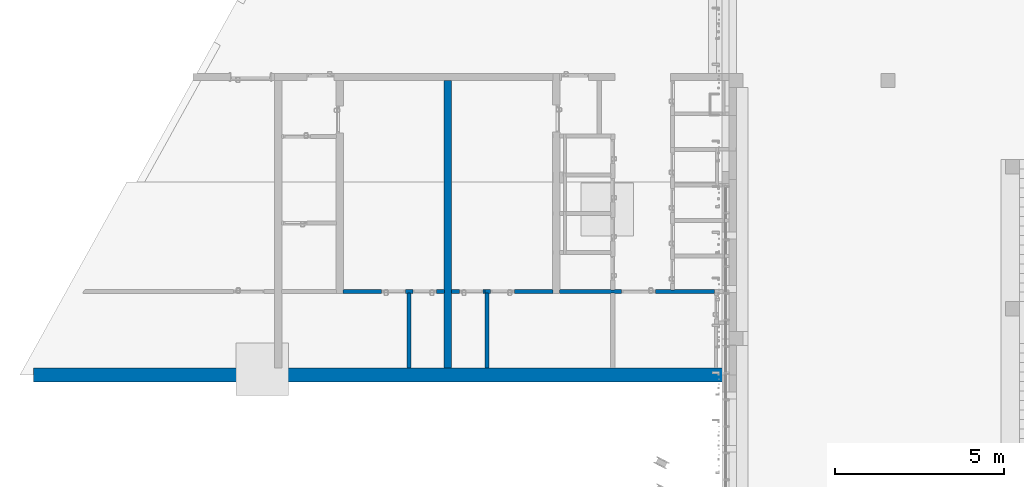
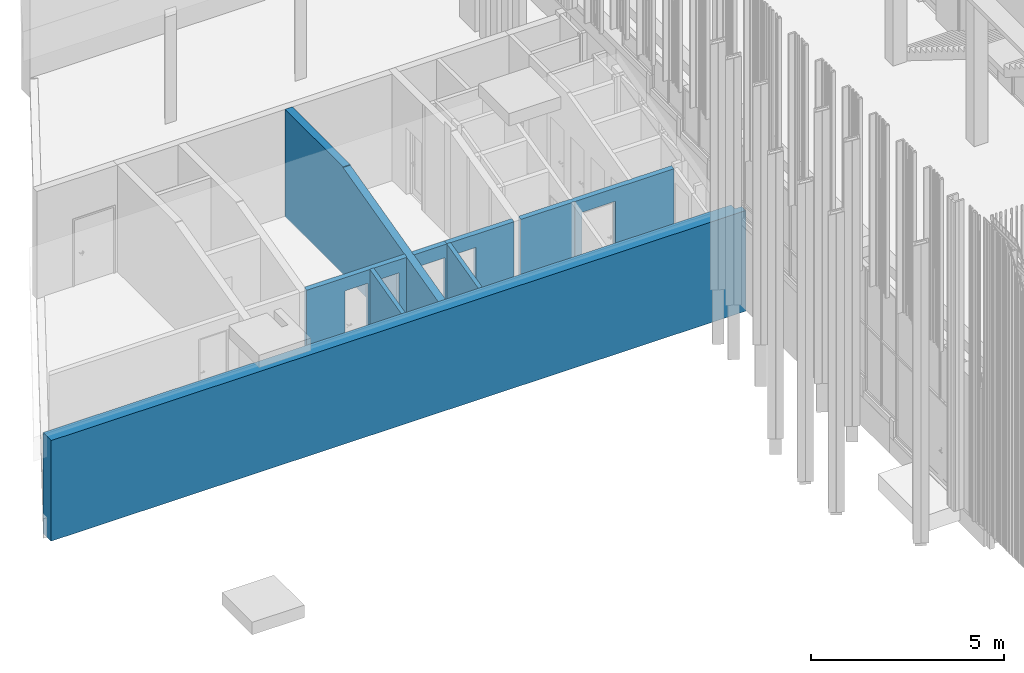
# One storey, part 113 of 390: 8 walls.
"""IFC2X3 building model written with IfcOpenShell, lengths in millimetres."""

from ifc_helpers import new_model, entity, si_unit, converted_unit, derived_unit, money_unit, direction, frame, origin_with_axes, place, context, subcontext, project, spatial, faceted_brep, material, material_list, type_object, element, save


model = new_model("IFC2X3")

# Units and contexts
model_context = context("Model", 3, precision=1e-05, world=origin_with_axes(), true_north=direction((0.0, 1.0)))
body_context = subcontext(model_context, "Body", "Model", "MODEL_VIEW")
ifc_project = project(units=[si_unit("LENGTHUNIT", "METRE", prefix="MILLI"), si_unit("AREAUNIT", "SQUARE_METRE"), si_unit("VOLUMEUNIT", "CUBIC_METRE"), converted_unit("PLANEANGLEUNIT", "DEGREE", entity("IfcPlaneAngleMeasure", 0.0174532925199), si_unit("PLANEANGLEUNIT", "RADIAN"), dimensions=[0, 0, 0, 0, 0, 0, 0]), si_unit("SOLIDANGLEUNIT", "STERADIAN"), money_unit("EUR"), converted_unit("TIMEUNIT", "Year", entity("IfcTimeMeasure", 31556926.0), si_unit("TIMEUNIT", "SECOND"), dimensions=[0, 0, 1, 0, 0, 0, 0]), si_unit("MASSUNIT", "GRAM", prefix="KILO"), si_unit("THERMODYNAMICTEMPERATUREUNIT", "DEGREE_CELSIUS"), si_unit("LUMINOUSINTENSITYUNIT", "LUMEN"), si_unit("ENERGYUNIT", "JOULE", prefix="MEGA"), derived_unit("THERMALCONDUCTANCEUNIT", [(si_unit("POWERUNIT", "WATT"), 1), (si_unit("LENGTHUNIT", "METRE"), -1), (si_unit("THERMODYNAMICTEMPERATUREUNIT", "KELVIN"), -1)]), derived_unit("SPECIFICHEATCAPACITYUNIT", [(si_unit("ENERGYUNIT", "JOULE"), 1), (si_unit("MASSUNIT", "GRAM", prefix="KILO"), -1), (si_unit("THERMODYNAMICTEMPERATUREUNIT", "KELVIN"), -1)]), derived_unit("MASSDENSITYUNIT", [(si_unit("MASSUNIT", "GRAM", prefix="KILO"), 1), (si_unit("VOLUMEUNIT", "CUBIC_METRE"), -1)])], contexts=[model_context])

# Site, building, storey
site_placement = place(None, origin_with_axes())
site = spatial("IfcSite", under=ifc_project, at=site_placement, Name="Site", CompositionType="ELEMENT")
building_placement = place(site_placement, origin_with_axes())
building = spatial("IfcBuilding", under=site, at=building_placement, Name="Building", CompositionType="ELEMENT")
storey_placement = place(building_placement, origin_with_axes())
storey = spatial("IfcBuildingStorey", under=building, at=storey_placement, Name="1 korrus", CompositionType="ELEMENT", Elevation=0.0)

# Walls
ifc_material_1 = material(Name="Krohv - Lubjakivi")
ifc_material_2 = material(Name="Raudbetoon - Konstruktsioon")
ifc_material_list_1 = material_list([ifc_material_1, ifc_material_1, ifc_material_2, ifc_material_1, ifc_material_1])
wall_type_1 = type_object("IfcWallType", Name="SS-10", PredefinedType="NOTDEFINED")
wall_1_placement = place(storey_placement, frame((114499.999993, 67290.00001, -620.0), z_axis=(0.0, 0.0, 1.0), x_axis=(-1.40133422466e-10, -1.0, 0.0)))
element("IfcWall", 1, at=wall_1_placement, inside=storey, type_object=wall_type_1, material=ifc_material_list_1, Name="SS-10", context=body_context, shape_type="Brep", body=[
    faceted_brep([(-2.83222334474e-08, -10.0, 3395.23675944), (0.0, 0.0, 3395.23675944), (0.0, 0.0, 0.0), (1.4068746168e-09, -10.0, 0.0), (2993.68143698, 4.19518642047e-07, 3395.23675944), (2993.68143698, -10.0000003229, 3395.23675944), (2993.68143643, 4.19518642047e-07, 3372.06226557), (6179.99999948, 8.66023697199e-07, 2562.84043919), (6179.99999948, 8.66023697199e-07, 0.0), (6179.99999948, -10.0, 0.0), (6179.99999948, -10.0, 2562.84043919), (2993.68143643, -10.0000004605, 3372.06226557)], [[[0, 1, 2, 3]], [[4, 1, 0, 5]], [[1, 4, 6, 7, 8, 2]], [[3, 2, 8, 9]], [[5, 0, 3, 9, 10, 11]], [[4, 5, 11, 6]], [[10, 7, 6, 11]], [[8, 7, 10, 9]]]),
    faceted_brep([(6279.99999948, -10.0, 2537.44367454), (6279.99999948, 8.80049810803e-07, 2537.44367454), (6279.99999948, 8.80049810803e-07, 0.0), (6279.99999948, -10.0, 0.0), (8490.00000015, 1.18973275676e-06, 1976.17517566), (8490.00000015, -9.99999881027, 1976.17517566), (8490.00000015, 1.18973275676e-06, 0.0), (8490.00000015, -9.99999881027, 0.0)], [[[0, 1, 2, 3]], [[4, 1, 0, 5]], [[1, 4, 6, 2]], [[7, 3, 2, 6]], [[5, 0, 3, 7]], [[4, 5, 7, 6]]]),
    faceted_brep([(-1.39266376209e-09, -210.0, 3395.23675944), (-2.94164692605e-08, -10.0, 3395.23675944), (-9.9999999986, -10.0000000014, 3395.23675923), (-9.99999997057, -210.000000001, 3395.23675923), (2993.68143698, -9.99999958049, 3395.23675944), (2993.681437, -209.99999958, 3395.23675944), (2993.68143643, -9.99999958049, 3372.06226557), (8490.00000012, -9.99999881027, 1976.17517567), (8490.00000012, -9.99999881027, 0.0), (-9.9999999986, -10.0000000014, 0.0), (-9.99999997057, -210.000000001, 0.0), (8490.00000015, -209.99999881, 0.0), (8490.00000015, -209.99999881, 1976.17517567), (2993.68143645, -209.99999958, 3372.06226557)], [[[0, 1, 2, 3]], [[4, 1, 0, 5]], [[1, 4, 6, 7, 8, 9, 2]], [[9, 10, 3, 2]], [[5, 0, 3, 10, 11, 12, 13]], [[4, 5, 13, 6]], [[12, 7, 6, 13]], [[8, 7, 12, 11]], [[8, 11, 10, 9]]]),
    faceted_brep([(3.08233438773e-08, -220.0, 3395.23675944), (-2.98427949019e-10, -210.0, 3395.23675944), (2.94306801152e-08, -210.0, 0.0), (3.08233438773e-08, -220.0, 0.0), (2993.681437, -209.99999958, 3395.23675944), (2993.681437, -219.99999958, 3395.23675944), (2993.68143645, -209.99999958, 3372.06226557), (6179.99999936, -209.999999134, 2562.84043923), (6179.9999995, -209.999999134, 0.0), (6179.9999995, -219.999999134, 0.0), (6179.99999936, -219.999999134, 2562.84043923), (2993.68143645, -219.99999958, 3372.06226557)], [[[0, 1, 2, 3]], [[4, 1, 0, 5]], [[1, 4, 6, 7, 8, 2]], [[3, 2, 8, 9]], [[5, 0, 3, 9, 10, 11]], [[4, 5, 11, 6]], [[10, 7, 6, 11]], [[8, 7, 10, 9]]]),
    faceted_brep([(6279.99999936, -219.99999912, 2537.44367458), (6279.99999936, -209.99999912, 2537.44367458), (6279.9999995, -209.99999912, 0.0), (6279.9999995, -219.99999912, 0.0), (8490.00000015, -209.99999881, 1976.17517567), (8490.00000015, -219.99999881, 1976.17517567), (8490.00000015, -209.99999881, 0.0), (8490.00000015, -219.99999881, 0.0)], [[[0, 1, 2, 3]], [[4, 1, 0, 5]], [[1, 4, 6, 2]], [[7, 3, 2, 6]], [[5, 0, 3, 7]], [[4, 5, 7, 6]]]),
])
ifc_material_3 = material(Name="Soojustus - Plastik Kõva")
ifc_material_4 = material(Name="Membraan - Veekindel")
ifc_material_list_2 = material_list([ifc_material_1, ifc_material_2, ifc_material_3, ifc_material_3, ifc_material_4, ifc_material_4])
wall_type_2 = type_object("IfcWallType", Name="VS-03", PredefinedType="NOTDEFINED")
wall_2_placement = place(storey_placement, frame((102141.328445, 58800.0000072, -1220.0), z_axis=(0.0, 0.0, 1.0), x_axis=(1.0, 0.0, 0.0)))
element("IfcWall", 2, at=wall_2_placement, inside=storey, type_object=wall_type_2, material=ifc_material_list_2, Name="VS-03", context=body_context, shape_type="Brep", body=[
    faceted_brep([(20348.6715499, 2.72848410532e-07, 3181.33081062), (20348.6715499, 1.12495115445e-05, 2923.43989424), (20768.6715499, 1.1255139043e-05, 2923.43989424), (20768.6715409, 1.1255139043e-05, 0.0), (0.0, 0.0, 0.0), (0.0, 0.0, 3181.33081062), (20348.6715499, -9.99999972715, 3181.33081062), (20348.6715499, -9.99997863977, 2923.43989424), (20768.6715499, -9.9999980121, 2923.43989424), (20768.6715409, -9.99997863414, 0.0), (1.27897692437e-10, -10.0, 0.0), (1.27897692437e-10, -10.0, 3181.33081062)], [[[0, 1, 2, 3, 4, 5]], [[1, 0, 6, 7]], [[2, 1, 7, 8]], [[2, 8, 9, 3]], [[4, 3, 9, 10]], [[4, 10, 11, 5]], [[6, 0, 5, 11]], [[7, 6, 11, 10, 9, 8]]]),
    faceted_brep([(20558.6715499, -9.99999972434, 3181.33081062), (20558.6715499, -9.99997863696, 2923.43989424), (20768.6715499, -9.9999980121, 2923.43989424), (20768.6715409, -9.99997863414, 0.0), (1.27897692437e-10, -10.0, 0.0), (1.27897692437e-10, -10.0, 3181.33081062), (20558.6715499, -209.999997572, 3181.33081062), (20558.6715499, -209.999997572, 2923.43989424), (20768.6715499, -209.999997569, 2923.43989424), (20768.6715409, -209.999994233, 0.0), (2.81374923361e-09, -210.0, 0.0), (2.81374923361e-09, -210.0, 3181.33081062)], [[[0, 1, 2, 3, 4, 5]], [[1, 0, 6, 7]], [[2, 1, 7, 8]], [[2, 8, 9, 3]], [[4, 3, 9, 10]], [[4, 10, 11, 5]], [[6, 0, 5, 11]], [[7, 6, 11, 10, 9, 8]]]),
    faceted_brep([(20768.6715499, -209.999999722, 3181.3308078), (20768.6715499, -359.999999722, 3181.3308078), (20768.6715409, -359.999999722, 0.0), (20768.6715409, -209.999994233, 0.0), (4.83169060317e-09, -360.0, 3181.33081062), (2.81374923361e-09, -210.0, 3181.33081062), (4.83169060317e-09, -360.0, 0.0), (2.81374923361e-09, -210.0, 0.0)], [[[0, 1, 2, 3]], [[4, 1, 0, 5]], [[6, 2, 1, 4]], [[7, 3, 2, 6]], [[0, 3, 7, 5]], [[7, 6, 4, 5]]]),
    faceted_brep([(20768.6715499, -409.999999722, 3181.3308078), (20768.6715409, -410.000009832, 0.0), (20768.6715409, -359.999999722, 0.0), (20768.6715499, -359.999999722, 3181.3308078), (5.49960077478e-09, -410.0, 3181.33081062), (5.49960077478e-09, -410.0, 0.0), (4.83169060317e-09, -360.0, 0.0), (4.83169060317e-09, -360.0, 3181.33081062)], [[[0, 1, 2, 3]], [[1, 0, 4, 5]], [[2, 1, 5, 6]], [[2, 6, 7, 3]], [[0, 3, 7, 4]], [[5, 4, 7, 6]]]),
    faceted_brep([(20768.6715499, -414.999999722, 3181.3308078), (20768.6715409, -414.999999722, 0.0), (20768.6715409, -410.000009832, 0.0), (20768.6715499, -409.999999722, 3181.3308078), (5.57065504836e-09, -415.0, 3181.33081062), (5.57065504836e-09, -415.0, 0.0), (5.49960077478e-09, -410.0, 0.0), (5.49960077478e-09, -410.0, 3181.33081062)], [[[0, 1, 2, 3]], [[1, 0, 4, 5]], [[2, 1, 5, 6]], [[2, 6, 7, 3]], [[0, 3, 7, 4]], [[5, 4, 7, 6]]]),
    faceted_brep([(20768.6715409, -419.999999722, 2923.43989424), (20768.6715409, -419.999999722, 0.0), (20768.6715409, -414.999999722, 0.0), (20768.6715499, -414.999999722, 3181.3308078), (20768.6715499, -419.999999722, 3181.3308078), (5.62749846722e-09, -420.0, 3181.33081062), (5.62749846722e-09, -420.0, 0.0), (5.57065504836e-09, -415.0, 0.0), (5.57065504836e-09, -415.0, 3181.33081062)], [[[0, 1, 2, 3, 4]], [[1, 0, 4, 5, 6]], [[2, 1, 6, 7]], [[2, 7, 8, 3]], [[4, 3, 8, 5]], [[6, 5, 8, 7]]]),
])
ifc_material_5 = material(Name="Müüriplokk - Konstuktsioon")
ifc_material_list_3 = material_list([ifc_material_1, ifc_material_5, ifc_material_1])
wall_type_3 = type_object("IfcWallType", Name="SS-07", PredefinedType="NOTDEFINED")
wall_3_placement = place(storey_placement, frame((115479.999992, 61000.0000105, -620.0), z_axis=(0.0, 0.0, 1.0), x_axis=(-1.0, 1.40129178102e-10, 0.0)))
element("IfcWall", 3, at=wall_3_placement, inside=storey, type_object=wall_type_3, material=ifc_material_list_3, Name="SS-07", context=body_context, shape_type="Brep", body=[
    faceted_brep([(980.0, -9.99999986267, 2537.44367454), (1.39266376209e-09, -10.0, 2537.44367454), (1.39266376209e-09, -10.0, 0.0), (49.9999999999, -9.99999999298, 0.0), (49.9999999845, -9.99999999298, 20.0), (49.9999999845, -9.99999999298, 2120.0), (749.999999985, -9.99999989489, 2120.0), (749.999999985, -9.99999989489, 20.0), (750.0, -9.99999989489, 0.0), (980.0, -9.99999986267, 0.0), (0.0, 0.0, 2534.90399808), (980.0, 1.3732659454e-07, 2534.90399808), (0.0, 0.0, 0.0), (49.9999999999, 7.01305680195e-09, 0.0), (49.9999999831, 7.01305680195e-09, 20.0), (49.9999999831, 7.01305680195e-09, 2120.0), (749.999999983, 1.05103481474e-07, 2120.0), (749.999999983, 1.05103481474e-07, 20.0), (750.0, 1.05103481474e-07, 0.0), (980.0, 1.3732659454e-07, 0.0)], [[[0, 1, 2, 3, 4, 5, 6, 7, 8, 9]], [[10, 1, 0, 11]], [[1, 10, 12, 2]], [[13, 3, 2, 12]], [[13, 14, 4, 3]], [[15, 5, 4, 14]], [[16, 6, 5, 15]], [[17, 7, 6, 16]], [[8, 7, 17, 18]], [[8, 18, 19, 9]], [[11, 0, 9, 19]], [[10, 11, 19, 18, 17, 16, 15, 14, 13, 12]]]),
    faceted_brep([(990.0, -109.999999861, 2562.84043919), (1.54045665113e-08, -110.0, 2562.84043919), (1.54045665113e-08, -110.0, 0.0), (49.9999999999, -109.999999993, 0.0), (49.9999999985, -109.999999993, 20.0), (49.9999999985, -109.999999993, 2120.0), (749.999999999, -109.999999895, 2120.0), (749.999999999, -109.999999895, 20.0), (750.0, -109.999999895, 0.0), (990.0, -109.999999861, 0.0), (1.39266376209e-09, -10.0, 2537.44367454), (990.0, -9.99999986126, 2537.44367454), (1.39266376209e-09, -10.0, 0.0), (49.9999999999, -9.99999999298, 0.0), (49.9999999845, -9.99999999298, 20.0), (49.9999999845, -9.99999999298, 2120.0), (749.999999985, -9.99999989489, 2120.0), (749.999999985, -9.99999989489, 20.0), (750.0, -9.99999989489, 0.0), (990.0, -9.99999986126, 0.0)], [[[0, 1, 2, 3, 4, 5, 6, 7, 8, 9]], [[10, 1, 0, 11]], [[1, 10, 12, 2]], [[13, 3, 2, 12]], [[13, 14, 4, 3]], [[15, 5, 4, 14]], [[16, 6, 5, 15]], [[17, 7, 6, 16]], [[8, 7, 17, 18]], [[8, 18, 19, 9]], [[11, 0, 9, 19]], [[10, 11, 19, 18, 17, 16, 15, 14, 13, 12]]]),
    faceted_brep([(980.0, -119.999999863, 2565.38011565), (1.68114411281e-08, -120.0, 2565.38011565), (1.68114411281e-08, -120.0, 0.0), (49.9999999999, -119.999999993, 0.0), (50.0, -119.999999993, 20.0), (50.0, -119.999999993, 2120.0), (750.0, -119.999999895, 2120.0), (750.0, -119.999999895, 20.0), (750.0, -119.999999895, 0.0), (980.0, -119.999999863, 0.0), (1.54045665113e-08, -110.0, 2562.84043919), (980.0, -109.999999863, 2562.84043919), (1.54045665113e-08, -110.0, 0.0), (49.9999999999, -109.999999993, 0.0), (49.9999999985, -109.999999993, 20.0), (49.9999999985, -109.999999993, 2120.0), (749.999999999, -109.999999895, 2120.0), (749.999999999, -109.999999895, 20.0), (750.0, -109.999999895, 0.0), (980.0, -109.999999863, 0.0)], [[[0, 1, 2, 3, 4, 5, 6, 7, 8, 9]], [[10, 1, 0, 11]], [[1, 10, 12, 2]], [[13, 3, 2, 12]], [[13, 14, 4, 3]], [[15, 5, 4, 14]], [[16, 6, 5, 15]], [[17, 7, 6, 16]], [[8, 7, 17, 18]], [[8, 18, 19, 9]], [[11, 0, 9, 19]], [[10, 11, 19, 18, 17, 16, 15, 14, 13, 12]]]),
])
ifc_material_list_4 = material_list([ifc_material_1, ifc_material_1, ifc_material_5, ifc_material_1, ifc_material_1, ifc_material_1])
wall_4_placement = place(storey_placement, frame((122269.999996, 61000.0000102, -620.0), z_axis=(0.0, 0.0, 1.0), x_axis=(-1.0, 0.0, 0.0)))
element("IfcWall", 4, at=wall_4_placement, inside=storey, type_object=wall_type_3, material=ifc_material_list_4, Name="SS-07", context=body_context, shape_type="Brep", body=[
    faceted_brep([(2960.00000306, -9.99999996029, 2537.44367445), (1.42108547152e-10, -10.0, 2537.44367445), (1.42108547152e-10, -10.0, 0.0), (1750.00000306, -9.99999997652, 0.0), (1750.00000306, -9.99999997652, 20.0), (1750.00000306, -9.99999997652, 2120.0), (2750.00000306, -9.99999996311, 2120.0), (2750.00000306, -9.99999996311, 20.0), (2750.00000306, -9.99999996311, 0.0), (2960.00000306, -9.99999996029, 0.0), (0.0, 0.0, 2534.90399798), (2960.00000306, 3.97051280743e-08, 2534.90399798), (0.0, 0.0, 0.0), (1750.00000306, 2.34763319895e-08, 0.0), (1750.00000306, 2.34763319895e-08, 20.0), (1750.00000306, 2.34763319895e-08, 2120.0), (2750.00000306, 3.68913788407e-08, 2120.0), (2750.00000306, 3.68913788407e-08, 20.0), (2750.00000306, 3.68913788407e-08, 0.0), (2960.00000306, 3.97051280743e-08, 0.0)], [[[0, 1, 2, 3, 4, 5, 6, 7, 8, 9]], [[10, 1, 0, 11]], [[1, 10, 12, 2]], [[13, 3, 2, 12]], [[13, 14, 4, 3]], [[15, 5, 4, 14]], [[16, 6, 5, 15]], [[17, 7, 6, 16]], [[8, 7, 17, 18]], [[8, 18, 19, 9]], [[11, 0, 9, 19]], [[10, 11, 19, 18, 17, 16, 15, 14, 13, 12]]]),
    faceted_brep([(4570.00000294, -9.9999999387, 2537.44367445), (3060.00000306, -9.99999995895, 2537.44367445), (3060.00000306, -9.99999995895, 0.0), (4570.00000294, -9.9999999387, 0.0), (3060.00000306, 4.10480538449e-08, 2534.90399798), (4570.00000294, 1.21704601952e-06, 2534.90399769), (3060.00000306, 4.10480538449e-08, 0.0), (4570.00000294, 4.43303349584e-06, 0.0)], [[[0, 1, 2, 3]], [[4, 1, 0, 5]], [[1, 4, 6, 2]], [[6, 7, 3, 2]], [[5, 0, 3, 7]], [[4, 5, 7, 6]]]),
    faceted_brep([(4580.00000354, -109.999999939, 2562.84043909), (1.47792889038e-09, -110.0, 2562.84043909), (1.47792889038e-09, -110.0, 0.0), (1750.00000306, -109.999999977, 0.0), (1750.00000306, -109.999999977, 20.0), (1750.00000306, -109.999999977, 2120.0), (2750.00000306, -109.999999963, 2120.0), (2750.00000306, -109.999999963, 20.0), (2750.00000306, -109.999999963, 0.0), (4580.00000354, -109.999999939, 0.0), (1.42108547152e-10, -10.0, 2537.44367445), (4580.00000354, -9.99999993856, 2537.44367445), (1.42108547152e-10, -10.0, 0.0), (1750.00000306, -9.99999997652, 0.0), (1750.00000306, -9.99999997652, 20.0), (1750.00000306, -9.99999997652, 2120.0), (2750.00000306, -9.99999996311, 2120.0), (2750.00000306, -9.99999996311, 20.0), (2750.00000306, -9.99999996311, 0.0), (4580.00000354, -9.99999993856, 0.0)], [[[0, 1, 2, 3, 4, 5, 6, 7, 8, 9]], [[10, 1, 0, 11]], [[1, 10, 12, 2]], [[13, 3, 2, 12]], [[13, 14, 4, 3]], [[15, 5, 4, 14]], [[16, 6, 5, 15]], [[17, 7, 6, 16]], [[8, 7, 17, 18]], [[8, 18, 19, 9]], [[11, 0, 9, 19]], [[10, 11, 19, 18, 17, 16, 15, 14, 13, 12]]]),
    faceted_brep([(2960.00000306, -119.99999996, 2565.38011556), (1290.00000367, -119.999999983, 2565.38011556), (1290.00000367, -119.999999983, 0.0), (1750.00000306, -119.999999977, 0.0), (1750.00000306, -119.999999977, 20.0), (1750.00000306, -119.999999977, 2120.0), (2750.00000306, -119.999999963, 2120.0), (2750.00000306, -119.999999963, 20.0), (2750.00000306, -119.999999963, 0.0), (2960.00000306, -119.99999996, 0.0), (1290.00000367, -109.999999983, 2562.84043909), (2960.00000306, -109.99999996, 2562.84043909), (1290.00000367, -109.999999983, 0.0), (1750.00000306, -109.999999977, 0.0), (1750.00000306, -109.999999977, 20.0), (1750.00000306, -109.999999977, 2120.0), (2750.00000306, -109.999999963, 2120.0), (2750.00000306, -109.999999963, 20.0), (2750.00000306, -109.999999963, 0.0), (2960.00000306, -109.99999996, 0.0)], [[[0, 1, 2, 3, 4, 5, 6, 7, 8, 9]], [[10, 1, 0, 11]], [[1, 10, 12, 2]], [[13, 3, 2, 12]], [[13, 14, 4, 3]], [[15, 5, 4, 14]], [[16, 6, 5, 15]], [[17, 7, 6, 16]], [[8, 7, 17, 18]], [[8, 18, 19, 9]], [[11, 0, 9, 19]], [[10, 11, 19, 18, 17, 16, 15, 14, 13, 12]]]),
    faceted_brep([(4570.00000294, -119.999999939, 2565.38011556), (3060.00000306, -119.999999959, 2565.38011556), (3060.00000306, -119.999999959, 0.0), (4570.00000294, -119.999999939, 0.0), (3060.00000306, -109.999999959, 2562.84043909), (4570.00000294, -109.999999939, 2562.84043909), (3060.00000306, -109.999999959, 0.0), (4570.00000294, -109.999999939, 0.0)], [[[0, 1, 2, 3]], [[4, 1, 0, 5]], [[1, 4, 6, 2]], [[6, 7, 3, 2]], [[5, 0, 3, 7]], [[4, 5, 7, 6]]]),
    faceted_brep([(1190.00000367, -119.999999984, 2565.38011556), (1.62003743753e-09, -120.0, 2565.38011556), (1.62003743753e-09, -120.0, 0.0), (1190.00000367, -119.999999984, 0.0), (1.47792889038e-09, -110.0, 2562.84043909), (1190.00000367, -109.999999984, 2562.84043909), (1.47792889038e-09, -110.0, 0.0), (1190.00000367, -109.999999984, 0.0)], [[[0, 1, 2, 3]], [[4, 1, 0, 5]], [[1, 4, 6, 2]], [[2, 6, 7, 3]], [[5, 0, 3, 7]], [[4, 5, 7, 6]]]),
])
wall_5_placement = place(storey_placement, frame((113299.999992, 58800.0000109, -620.0), z_axis=(0.0, 0.0, 1.0), x_axis=(0.0, 1.0, 0.0)))
element("IfcWall", 5, at=wall_5_placement, inside=storey, type_object=wall_type_3, material=ifc_material_list_3, Name="SS-07", context=body_context, shape_type="Brep", body=[
    faceted_brep([(2199.99999985, 120.00000003, 2534.90399812), (2199.99999985, 110.00000003, 2534.90399812), (2199.99999985, 110.00000003, 0.0), (2199.99999985, 120.00000003, 0.0), (-1.47792889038e-09, 110.0, 1976.17517591), (-1.60582658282e-09, 120.0, 1976.17517591), (-1.47792889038e-09, 110.0, 0.0), (-1.60582658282e-09, 120.0, 0.0)], [[[0, 1, 2, 3]], [[4, 1, 0, 5]], [[1, 4, 6, 2]], [[3, 2, 6, 7]], [[5, 0, 3, 7]], [[4, 5, 7, 6]]]),
    faceted_brep([(2209.99999985, 110.00000003, 2537.44367459), (2209.99999985, 10.0000000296, 2537.44367459), (2209.99999985, 10.0000000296, 0.0), (2209.99999985, 110.00000003, 0.0), (-1.35003119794e-10, 10.0, 1976.17517591), (-1.47792889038e-09, 110.0, 1976.17517591), (-1.35003119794e-10, 10.0, 0.0), (-1.47792889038e-09, 110.0, 0.0)], [[[0, 1, 2, 3]], [[4, 1, 0, 5]], [[1, 4, 6, 2]], [[3, 2, 6, 7]], [[5, 0, 3, 7]], [[4, 5, 7, 6]]]),
    faceted_brep([(2199.99999985, 10.0000000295, 2534.90399812), (2199.99999985, 2.95017343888e-08, 2534.90399812), (2199.99999985, 2.95017343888e-08, 0.0), (2199.99999985, 10.0000000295, 0.0), (0.0, 0.0, 1976.17517591), (-1.35003119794e-10, 10.0, 1976.17517591), (0.0, 0.0, 0.0), (-1.35003119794e-10, 10.0, 0.0)], [[[0, 1, 2, 3]], [[4, 1, 0, 5]], [[1, 4, 6, 2]], [[3, 2, 6, 7]], [[5, 0, 3, 7]], [[4, 5, 7, 6]]]),
])
wall_6_placement = place(storey_placement, frame((115599.999992, 61000.0000105, -620.0), z_axis=(0.0, 0.0, 1.0), x_axis=(-1.40131946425e-10, -1.0, 0.0)))
element("IfcWall", 6, at=wall_6_placement, inside=storey, type_object=wall_type_3, material=ifc_material_list_3, Name="SS-07", context=body_context, shape_type="Brep", body=[
    faceted_brep([(0.0, -10.0, 2534.90399807), (0.0, 0.0, 2534.90399807), (0.0, 0.0, 0.0), (0.0, -10.0, 0.0), (2200.0000004, 3.08290282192e-07, 1976.17517573), (2200.00000041, -9.99999969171, 1976.17517573), (2200.0000004, 3.08290282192e-07, 0.0), (2200.00000041, -9.99999969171, 0.0)], [[[0, 1, 2, 3]], [[4, 1, 0, 5]], [[1, 4, 6, 2]], [[2, 6, 7, 3]], [[5, 0, 3, 7]], [[4, 5, 7, 6]]]),
    faceted_brep([(-10.0, -110.000000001, 2537.44367454), (-10.0, -10.0000000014, 2537.44367454), (-10.0, -10.0000000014, 0.0), (-10.0, -110.000000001, 0.0), (2200.00000039, -9.99999969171, 1976.17517573), (2200.00000041, -109.999999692, 1976.17517573), (2200.00000039, -9.99999969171, 0.0), (2200.00000041, -109.999999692, 0.0)], [[[0, 1, 2, 3]], [[4, 1, 0, 5]], [[1, 4, 6, 2]], [[2, 6, 7, 3]], [[5, 0, 3, 7]], [[4, 5, 7, 6]]]),
    faceted_brep([(0.0, -120.0, 2534.90399808), (0.0, -110.0, 2534.90399808), (0.0, -110.0, 0.0), (0.0, -120.0, 0.0), (2200.0000004, -109.999999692, 1976.17517573), (2200.00000041, -119.999999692, 1976.17517573), (2200.0000004, -109.999999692, 0.0), (2200.00000041, -119.999999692, 0.0)], [[[0, 1, 2, 3]], [[4, 1, 0, 5]], [[1, 4, 6, 2]], [[2, 6, 7, 3]], [[5, 0, 3, 7]], [[4, 5, 7, 6]]]),
])
ifc_material_list_5 = material_list([ifc_material_1, ifc_material_1, ifc_material_5, ifc_material_1])
wall_7_placement = place(storey_placement, frame((117699.999992, 61000.0000102, -620.0), z_axis=(0.0, 0.0, 1.0), x_axis=(-1.0, 1.40130549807e-10, 0.0)))
element("IfcWall", 7, at=wall_7_placement, inside=storey, type_object=wall_type_3, material=ifc_material_list_5, Name="SS-07", context=body_context, shape_type="Brep", body=[
    faceted_brep([(2110.0, -9.99999970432, 2537.44367446), (210.0, -9.99999997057, 2537.44367446), (210.0, -9.99999997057, 0.0), (1350.0, -9.99999981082, 0.0), (1349.99999998, -9.99999981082, 20.0), (1349.99999998, -9.99999981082, 2120.0), (2049.99999998, -9.99999971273, 2120.0), (2049.99999998, -9.99999971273, 20.0), (2050.0, -9.99999971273, 0.0), (2110.0, -9.99999970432, 0.0), (210.0, 2.94306801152e-08, 2534.903998), (2110.0, 2.95678148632e-07, 2534.903998), (210.0, 2.94306801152e-08, 0.0), (1350.0, 1.89174897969e-07, 0.0), (1349.99999998, 1.89174897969e-07, 20.0), (1349.99999998, 1.89174897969e-07, 2120.0), (2049.99999998, 2.8726532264e-07, 2120.0), (2049.99999998, 2.8726532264e-07, 20.0), (2050.0, 2.8726532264e-07, 0.0), (2110.0, 2.95678148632e-07, 0.0)], [[[0, 1, 2, 3, 4, 5, 6, 7, 8, 9]], [[10, 1, 0, 11]], [[1, 10, 12, 2]], [[13, 3, 2, 12]], [[13, 14, 4, 3]], [[15, 5, 4, 14]], [[16, 6, 5, 15]], [[17, 7, 6, 16]], [[8, 7, 17, 18]], [[8, 18, 19, 9]], [[11, 0, 9, 19]], [[10, 11, 19, 18, 17, 16, 15, 14, 13, 12]]]),
    faceted_brep([(2220.0, -9.99999968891, 2537.44367446), (2210.0, -9.99999969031, 2537.44367446), (2210.0, -9.99999969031, 0.0), (2220.0, -9.99999968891, 0.0), (2210.0, 3.09690051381e-07, 2534.903998), (2220.0, 3.1108982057e-07, 2534.903998), (2210.0, 3.09690051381e-07, 0.0), (2220.0, 3.1108982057e-07, 0.0)], [[[0, 1, 2, 3]], [[4, 1, 0, 5]], [[1, 4, 6, 2]], [[6, 7, 3, 2]], [[5, 0, 3, 7]], [[4, 5, 7, 6]]]),
    faceted_brep([(2220.0, -109.999999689, 2562.84043911), (209.999999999, -109.999999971, 2562.84043911), (209.999999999, -109.999999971, 0.0), (1350.0, -109.999999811, 0.0), (1350.0, -109.999999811, 20.0), (1350.0, -109.999999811, 2120.0), (2050.0, -109.999999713, 2120.0), (2050.0, -109.999999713, 20.0), (2050.0, -109.999999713, 0.0), (2220.0, -109.999999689, 0.0), (210.0, -9.99999997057, 2537.44367446), (2219.99999999, -9.99999968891, 2537.44367446), (210.0, -9.99999997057, 0.0), (1350.0, -9.99999981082, 0.0), (1349.99999998, -9.99999981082, 20.0), (1349.99999998, -9.99999981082, 2120.0), (2049.99999998, -9.99999971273, 2120.0), (2049.99999998, -9.99999971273, 20.0), (2050.0, -9.99999971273, 0.0), (2219.99999999, -9.99999968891, 0.0)], [[[0, 1, 2, 3, 4, 5, 6, 7, 8, 9]], [[10, 1, 0, 11]], [[1, 10, 12, 2]], [[13, 3, 2, 12]], [[13, 14, 4, 3]], [[15, 5, 4, 14]], [[16, 6, 5, 15]], [[17, 7, 6, 16]], [[8, 7, 17, 18]], [[8, 18, 19, 9]], [[11, 0, 9, 19]], [[10, 11, 19, 18, 17, 16, 15, 14, 13, 12]]]),
    faceted_brep([(2220.0, -119.999999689, 2565.38011558), (219.999999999, -119.999999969, 2565.38011558), (219.999999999, -119.999999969, 0.0), (1350.0, -119.999999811, 0.0), (1350.0, -119.999999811, 20.0), (1350.0, -119.999999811, 2120.0), (2050.0, -119.999999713, 2120.0), (2050.0, -119.999999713, 20.0), (2050.0, -119.999999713, 0.0), (2220.0, -119.999999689, 0.0), (219.999999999, -109.999999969, 2562.84043911), (2220.0, -109.999999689, 2562.84043911), (219.999999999, -109.999999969, 0.0), (1350.0, -109.999999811, 0.0), (1350.0, -109.999999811, 20.0), (1350.0, -109.999999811, 2120.0), (2050.0, -109.999999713, 2120.0), (2050.0, -109.999999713, 20.0), (2050.0, -109.999999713, 0.0), (2220.0, -109.999999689, 0.0)], [[[0, 1, 2, 3, 4, 5, 6, 7, 8, 9]], [[10, 1, 0, 11]], [[1, 10, 12, 2]], [[13, 3, 2, 12]], [[13, 14, 4, 3]], [[15, 5, 4, 14]], [[16, 6, 5, 15]], [[17, 7, 6, 16]], [[8, 7, 17, 18]], [[8, 18, 19, 9]], [[11, 0, 9, 19]], [[10, 11, 19, 18, 17, 16, 15, 14, 13, 12]]]),
])
wall_8_placement = place(storey_placement, frame((114499.999992, 61000.0000107, -620.0), z_axis=(0.0, 0.0, 1.0), x_axis=(-1.0, 0.0, 0.0)))
element("IfcWall", 8, at=wall_8_placement, inside=storey, type_object=wall_type_3, material=ifc_material_list_5, Name="SS-07", context=body_context, shape_type="Brep", body=[
    faceted_brep([(3210.0, -9.99999998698, 2537.44367458), (1310.00000031, -9.99999998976, 2537.44367458), (1310.00000031, -9.99999989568, 0.0), (1370.00000028, -9.99999989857, 0.0), (1370.00000028, -9.99999999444, 20.0), (1370.00000028, -9.99999999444, 2120.0), (2070.00000028, -9.99999999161, 2120.0), (2070.00000028, -9.99999999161, 20.0), (2070.00000028, -9.99999993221, 0.0), (3210.0, -9.99999998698, 0.0), (1310.00000031, 1.0331291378e-08, 2534.90399812), (3210.0, 1.30171429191e-08, 2534.90399812), (1310.00000031, 1.04314779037e-07, 0.0), (1370.00000028, 1.0142997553e-07, 0.0), (1370.00000028, 5.55644419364e-09, 20.0), (1370.00000028, 5.55644419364e-09, 2120.0), (2070.00000028, 8.39150970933e-09, 2120.0), (2070.00000028, 8.39150970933e-09, 20.0), (2070.00000028, 6.77928824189e-08, 0.0), (3210.0, 1.30171429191e-08, 0.0)], [[[0, 1, 2, 3, 4, 5, 6, 7, 8, 9]], [[10, 1, 0, 11]], [[1, 10, 12, 2]], [[3, 2, 12, 13]], [[14, 4, 3, 13]], [[5, 4, 14, 15]], [[6, 5, 15, 16]], [[7, 6, 16, 17]], [[7, 17, 18, 8]], [[18, 19, 9, 8]], [[11, 0, 9, 19]], [[10, 11, 19, 18, 17, 16, 15, 14, 13, 12]]]),
    faceted_brep([(1210.00000031, -9.99999998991, 2537.44367458), (219.999999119, -9.9999999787, 2537.44367458), (219.999999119, -9.99999984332, 0.0), (450.000000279, -9.99999985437, 0.0), (450.000000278, -9.99999999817, 20.0), (450.000000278, -9.99999999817, 2120.0), (1150.00000028, -9.99999999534, 2120.0), (1150.00000028, -9.99999999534, 20.0), (1150.00000028, -9.999999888, 0.0), (1210.00000031, -9.99999989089, 0.0), (219.999999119, 2.14370743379e-08, 2534.90399811), (1210.00000031, 1.01891828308e-08, 2534.90399812), (219.999999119, 1.56681778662e-07, 0.0), (450.000000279, 1.45632839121e-07, 0.0), (450.000000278, 1.8260948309e-09, 20.0), (450.000000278, 1.8260948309e-09, 2120.0), (1150.00000028, 4.66116034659e-09, 2120.0), (1150.00000028, 4.66116034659e-09, 20.0), (1150.00000028, 1.11995746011e-07, 0.0), (1210.00000031, 1.09110942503e-07, 0.0)], [[[0, 1, 2, 3, 4, 5, 6, 7, 8, 9]], [[10, 1, 0, 11]], [[1, 10, 12, 2]], [[3, 2, 12, 13]], [[13, 14, 4, 3]], [[15, 5, 4, 14]], [[16, 6, 5, 15]], [[17, 7, 6, 16]], [[8, 7, 17, 18]], [[18, 19, 9, 8]], [[11, 0, 9, 19]], [[10, 11, 19, 18, 17, 16, 15, 14, 13, 12]]]),
    faceted_brep([(3209.99999999, -109.999999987, 2562.84043923), (209.999999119, -109.99999998, 2562.84043923), (209.999999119, -109.999999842, 0.0), (450.000000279, -109.999999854, 0.0), (450.000000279, -109.999999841, 20.0), (450.000000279, -109.999999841, 2120.0), (1150.00000028, -109.999999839, 2120.0), (1150.00000028, -109.999999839, 20.0), (1150.00000028, -109.999999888, 0.0), (1370.00000028, -109.999999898, 0.0), (1370.00000028, -109.999999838, 20.0), (1370.00000028, -109.999999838, 2120.0), (2070.00000028, -109.999999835, 2120.0), (2070.00000028, -109.999999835, 20.0), (2070.00000028, -109.999999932, 0.0), (3209.99999999, -109.999999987, 0.0), (209.999999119, -9.9999999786, 2537.44367458), (3210.0, -9.99999998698, 2537.44367458), (209.999999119, -9.99999984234, 0.0), (450.000000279, -9.99999985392, 0.0), (450.000000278, -9.99999999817, 20.0), (450.000000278, -9.99999999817, 2120.0), (1150.00000028, -9.99999999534, 2120.0), (1150.00000028, -9.99999999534, 20.0), (1150.00000028, -9.99999988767, 0.0), (1370.00000028, -9.99999989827, 0.0), (1370.00000028, -9.99999999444, 20.0), (1370.00000028, -9.99999999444, 2120.0), (2070.00000028, -9.99999999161, 2120.0), (2070.00000028, -9.99999999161, 20.0), (2070.00000028, -9.99999993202, 0.0), (3210.0, -9.99999998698, 0.0)], [[[0, 1, 2, 3, 4, 5, 6, 7, 8, 9, 10, 11, 12, 13, 14, 15]], [[16, 1, 0, 17]], [[1, 16, 18, 2]], [[3, 2, 18, 19]], [[19, 20, 4, 3]], [[21, 5, 4, 20]], [[22, 6, 5, 21]], [[23, 7, 6, 22]], [[8, 7, 23, 24]], [[9, 8, 24, 25]], [[26, 10, 9, 25]], [[11, 10, 26, 27]], [[12, 11, 27, 28]], [[13, 12, 28, 29]], [[13, 29, 30, 14]], [[30, 31, 15, 14]], [[17, 0, 15, 31]], [[16, 17, 31, 30, 29, 28, 27, 26, 25, 24, 23, 22, 21, 20, 19, 18]]]),
    faceted_brep([(3199.99999998, -119.999999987, 2565.3801157), (219.999999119, -119.99999998, 2565.38011569), (219.999999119, -119.999999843, 0.0), (450.000000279, -119.999999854, 0.0), (450.000000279, -119.999999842, 20.0), (450.000000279, -119.999999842, 2120.0), (1150.00000028, -119.99999984, 2120.0), (1150.00000028, -119.99999984, 20.0), (1150.00000028, -119.999999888, 0.0), (1370.00000028, -119.999999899, 0.0), (1370.00000028, -119.999999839, 20.0), (1370.00000028, -119.999999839, 2120.0), (2070.00000028, -119.999999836, 2120.0), (2070.00000028, -119.999999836, 20.0), (2070.00000028, -119.999999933, 0.0), (3199.99999998, -119.999999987, 0.0), (219.999999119, -109.99999998, 2562.84043923), (3199.99999998, -109.999999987, 2562.84043923), (219.999999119, -109.999999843, 0.0), (450.000000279, -109.999999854, 0.0), (450.000000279, -109.999999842, 20.0), (450.000000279, -109.999999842, 2120.0), (1150.00000028, -109.99999984, 2120.0), (1150.00000028, -109.99999984, 20.0), (1150.00000028, -109.999999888, 0.0), (1370.00000028, -109.999999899, 0.0), (1370.00000028, -109.999999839, 20.0), (1370.00000028, -109.999999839, 2120.0), (2070.00000028, -109.999999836, 2120.0), (2070.00000028, -109.999999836, 20.0), (2070.00000028, -109.999999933, 0.0), (3199.99999998, -109.999999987, 0.0)], [[[0, 1, 2, 3, 4, 5, 6, 7, 8, 9, 10, 11, 12, 13, 14, 15]], [[16, 1, 0, 17]], [[1, 16, 18, 2]], [[3, 2, 18, 19]], [[19, 20, 4, 3]], [[21, 5, 4, 20]], [[22, 6, 5, 21]], [[23, 7, 6, 22]], [[8, 7, 23, 24]], [[9, 8, 24, 25]], [[26, 10, 9, 25]], [[11, 10, 26, 27]], [[12, 11, 27, 28]], [[13, 12, 28, 29]], [[13, 29, 30, 14]], [[30, 31, 15, 14]], [[17, 0, 15, 31]], [[16, 17, 31, 30, 29, 28, 27, 26, 25, 24, 23, 22, 21, 20, 19, 18]]]),
])

save(model, "model.ifc")
